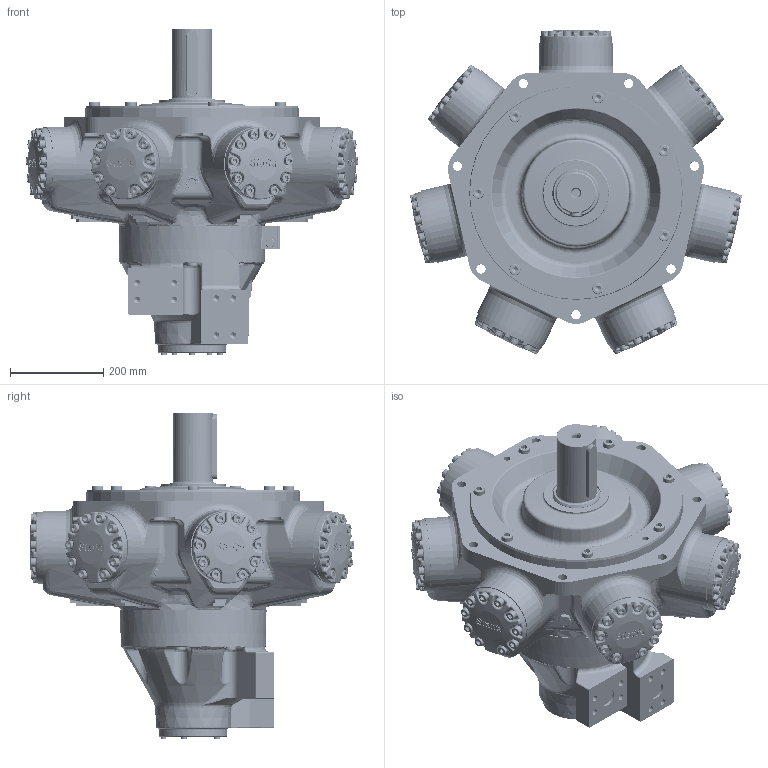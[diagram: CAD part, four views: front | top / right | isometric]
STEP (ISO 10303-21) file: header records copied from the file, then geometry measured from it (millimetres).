
FILE_DESCRIPTION(/* description */ (''),/* implementation_level */ '2;1');
FILE_NAME(/* name */ 'HMC270_P1_FM4_CS.stp',/* time_stamp */ '2025-06-16T11:06:49+01:00',/* author */ ('ccallanga'),/* organization */ (''),/* preprocessor_version */ 'ST-DEVELOPER v20',/* originating_system */ 'Autodesk Inventor 2024',/* authorisation */ '');
FILE_SCHEMA (('AUTOMOTIVE_DESIGN { 1 0 10303 214 3 1 1 }'));
Products named in the file (1): 017752 HMC270 Web Assembly_Simplify_1
Bounding box: 711.04 x 695.71 x 698.32 mm (x, y, z)
Volume: 73655029.5 mm3; surface area: 1699277.3 mm2
Topology: 1 solids, 1 shells, 6836 faces, 16718 edges, 9963 vertices
Faces by surface type: bspline 2703, plane 1976, cylinder 1290, torus 505, cone 184, sphere 178
Full cylindrical faces by diameter (mm): 2.2 x8, 4 x1, 4.134 x4, 5.5 x4, 6.05 x2, 9.4 x3, 11.913 x5, 12 x3, 12.7 x5, 13.843 x8, 14.351 x2, 16.51 x1, 17.323 x1, 19 x1, 19.05 x70, 20 x7, 20.637 x70, 23.825 x14, 25 x1, 25.4 x14, 26.92 x2, 27.94 x1, 38.1 x5, 85.001 x1, 101.575 x1, 106.68 x1, 139.7 x1, 146 x1, 146.05 x1, 311 x1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
Entity records: 298339 total; most frequent: CARTESIAN_POINT 151390, ORIENTED_EDGE 32788, DIRECTION 22733, EDGE_CURVE 16394, VERTEX_POINT 9963, AXIS2_PLACEMENT_3D 8513, EDGE_LOOP 7255, STYLED_ITEM 6837
